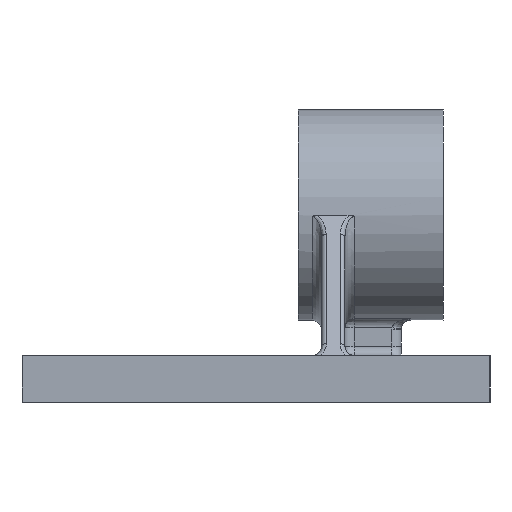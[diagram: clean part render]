
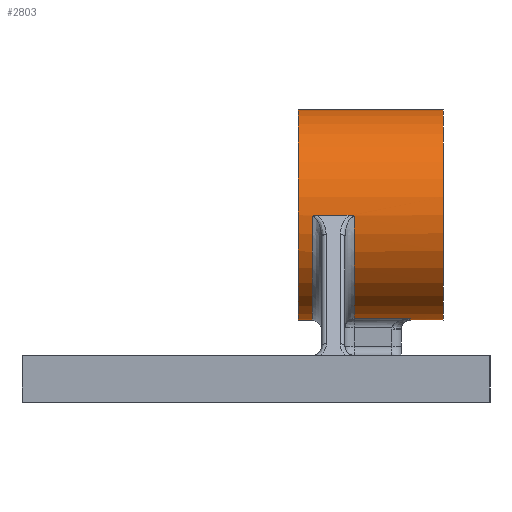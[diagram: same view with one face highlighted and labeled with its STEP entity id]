
A CAD part, left-side view. The second image highlights one B-rep face of the part: STEP entity #2803.
In plain terms, the highlighted cylindrical face has radius 22.5 mm (diameter 45 mm), a full revolution.
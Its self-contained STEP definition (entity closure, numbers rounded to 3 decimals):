
#157=CARTESIAN_POINT('',(-22.5,-12.905,40.));
#158=VERTEX_POINT('',#157);
#159=CARTESIAN_POINT('',(-22.498,-12.0,39.723));
#160=VERTEX_POINT('',#159);
#161=CARTESIAN_POINT('',(-22.498,-12.,39.723));
#162=CARTESIAN_POINT('',(-22.498,-12.001,39.723));
#163=CARTESIAN_POINT('',(-22.498,-12.002,39.724));
#164=CARTESIAN_POINT('',(-22.499,-12.124,39.812));
#165=CARTESIAN_POINT('',(-22.5,-12.255,39.877));
#166=CARTESIAN_POINT('',(-22.5,-12.56,39.976));
#167=CARTESIAN_POINT('',(-22.5,-12.732,40.));
#168=CARTESIAN_POINT('',(-22.5,-12.905,40.));
#169=B_SPLINE_CURVE_WITH_KNOTS('',3,(#161,#162,#163,#164,#165,#166,#167,#168),.UNSPECIFIED.,.F.,.U.,(4,2,2,4),(0.,0.0,0.045,0.097),.UNSPECIFIED.);
#170=EDGE_CURVE('',#158,#160,#169,.F.);
#451=CARTESIAN_POINT('',(22.498,-12.,39.723));
#452=VERTEX_POINT('',#451);
#453=CARTESIAN_POINT('',(0.,-12.,40.0));
#454=DIRECTION('',(0.0,-1.0,0.0));
#455=DIRECTION('',(0.0,0.0,-1.0));
#456=AXIS2_PLACEMENT_3D('',#453,#454,#455);
#457=CIRCLE('',#456,22.5);
#458=EDGE_CURVE('',#160,#452,#457,.T.);
#624=CARTESIAN_POINT('',(22.5,-20.095,40.));
#625=VERTEX_POINT('',#624);
#626=CARTESIAN_POINT('',(22.498,-21.,39.723));
#627=VERTEX_POINT('',#626);
#628=CARTESIAN_POINT('',(22.498,-21.,39.723));
#629=CARTESIAN_POINT('',(22.498,-20.999,39.723));
#630=CARTESIAN_POINT('',(22.498,-20.998,39.724));
#631=CARTESIAN_POINT('',(22.499,-20.876,39.812));
#632=CARTESIAN_POINT('',(22.5,-20.745,39.877));
#633=CARTESIAN_POINT('',(22.5,-20.44,39.976));
#634=CARTESIAN_POINT('',(22.5,-20.268,40.));
#635=CARTESIAN_POINT('',(22.5,-20.095,40.));
#636=B_SPLINE_CURVE_WITH_KNOTS('',3,(#628,#629,#630,#631,#632,#633,#634,#635),.UNSPECIFIED.,.F.,.U.,(4,2,2,4),(0.,0.0,0.045,0.097),.UNSPECIFIED.);
#637=EDGE_CURVE('',#625,#627,#636,.F.);
#926=CARTESIAN_POINT('',(22.5,-12.905,40.));
#927=VERTEX_POINT('',#926);
#928=CARTESIAN_POINT('',(22.5,-12.905,40.));
#929=CARTESIAN_POINT('',(22.5,-12.87,40.));
#930=CARTESIAN_POINT('',(22.5,-12.835,39.999));
#931=CARTESIAN_POINT('',(22.5,-12.649,39.988));
#932=CARTESIAN_POINT('',(22.5,-12.5,39.96));
#933=CARTESIAN_POINT('',(22.5,-12.231,39.865));
#934=CARTESIAN_POINT('',(22.499,-12.113,39.804));
#935=CARTESIAN_POINT('',(22.498,-12.002,39.724));
#936=CARTESIAN_POINT('',(22.498,-12.001,39.723));
#937=CARTESIAN_POINT('',(22.498,-12.,39.723));
#938=B_SPLINE_CURVE_WITH_KNOTS('',3,(#928,#929,#930,#931,#932,#933,#934,#935,#936,#937),.UNSPECIFIED.,.F.,.U.,(4,2,2,2,4),(0.0,0.011,0.056,0.096,0.097),.UNSPECIFIED.);
#939=EDGE_CURVE('',#452,#927,#938,.F.);
#1087=CARTESIAN_POINT('',(22.5,-20.095,40.));
#1088=DIRECTION('',(0.0,1.0,0.0));
#1089=VECTOR('',#1088,7.19);
#1090=LINE('',#1087,#1089);
#1091=EDGE_CURVE('',#625,#927,#1090,.T.);
#1383=CARTESIAN_POINT('',(-22.498,-21.0,39.723));
#1384=VERTEX_POINT('',#1383);
#1385=CARTESIAN_POINT('',(-22.5,-20.095,40.));
#1386=VERTEX_POINT('',#1385);
#1387=CARTESIAN_POINT('',(-22.5,-20.095,40.));
#1388=CARTESIAN_POINT('',(-22.5,-20.13,40.));
#1389=CARTESIAN_POINT('',(-22.5,-20.165,39.999));
#1390=CARTESIAN_POINT('',(-22.5,-20.351,39.988));
#1391=CARTESIAN_POINT('',(-22.5,-20.5,39.96));
#1392=CARTESIAN_POINT('',(-22.5,-20.769,39.865));
#1393=CARTESIAN_POINT('',(-22.499,-20.887,39.804));
#1394=CARTESIAN_POINT('',(-22.498,-20.998,39.724));
#1395=CARTESIAN_POINT('',(-22.498,-20.999,39.723));
#1396=CARTESIAN_POINT('',(-22.498,-21.,39.723));
#1397=B_SPLINE_CURVE_WITH_KNOTS('',3,(#1387,#1388,#1389,#1390,#1391,#1392,#1393,#1394,#1395,#1396),.UNSPECIFIED.,.F.,.U.,(4,2,2,2,4),(0.0,0.011,0.056,0.096,0.097),.UNSPECIFIED.);
#1398=EDGE_CURVE('',#1384,#1386,#1397,.F.);
#1479=CARTESIAN_POINT('',(-4.133,-21.,17.883));
#1480=VERTEX_POINT('',#1479);
#1488=CARTESIAN_POINT('',(0.,-21.,40.0));
#1489=DIRECTION('',(0.,1.0,0.));
#1490=DIRECTION('',(-0.745,0.,-0.667));
#1491=AXIS2_PLACEMENT_3D('',#1488,#1489,#1490);
#1492=CIRCLE('',#1491,22.5);
#1493=EDGE_CURVE('',#1480,#1384,#1492,.T.);
#1681=CARTESIAN_POINT('',(4.133,-33.0,17.883));
#1682=VERTEX_POINT('',#1681);
#1898=CARTESIAN_POINT('',(-4.133,-33.0,17.883));
#1899=VERTEX_POINT('',#1898);
#1900=CARTESIAN_POINT('',(0.,-33.0,40.0));
#1901=DIRECTION('',(0.0,1.0,0.0));
#1902=DIRECTION('',(0.0,0.0,-1.0));
#1903=AXIS2_PLACEMENT_3D('',#1900,#1901,#1902);
#1904=CIRCLE('',#1903,22.5);
#1905=EDGE_CURVE('',#1682,#1899,#1904,.T.);
#1952=CARTESIAN_POINT('',(4.133,-21.,17.883));
#1953=VERTEX_POINT('',#1952);
#1961=CARTESIAN_POINT('',(4.133,-21.,17.883));
#1962=DIRECTION('',(0.0,-1.0,0.0));
#1963=VECTOR('',#1962,12.);
#1964=LINE('',#1961,#1963);
#1965=EDGE_CURVE('',#1953,#1682,#1964,.T.);
#2645=CARTESIAN_POINT('',(-4.133,-33.0,17.883));
#2646=DIRECTION('',(0.0,1.0,0.0));
#2647=VECTOR('',#2646,12.);
#2648=LINE('',#2645,#2647);
#2649=EDGE_CURVE('',#1899,#1480,#2648,.T.);
#2702=CARTESIAN_POINT('',(0.,-21.,40.0));
#2703=DIRECTION('',(0.,1.0,0.));
#2704=DIRECTION('',(0.745,0.,-0.667));
#2705=AXIS2_PLACEMENT_3D('',#2702,#2703,#2704);
#2706=CIRCLE('',#2705,22.5);
#2707=EDGE_CURVE('',#627,#1953,#2706,.T.);
#2757=CARTESIAN_POINT('',(0.,-40.,40.0));
#2758=DIRECTION('',(0.,1.0,0.0));
#2759=DIRECTION('',(-1.0,0.0,0.0));
#2760=AXIS2_PLACEMENT_3D('',#2757,#2758,#2759);
#2761=CYLINDRICAL_SURFACE('',#2760,22.5);
#2762=CARTESIAN_POINT('',(22.5,-40.,40.0));
#2763=VERTEX_POINT('',#2762);
#2764=CARTESIAN_POINT('',(0.,-40.,40.0));
#2765=DIRECTION('',(0.0,1.0,0.0));
#2766=DIRECTION('',(-1.0,0.0,0.0));
#2767=AXIS2_PLACEMENT_3D('',#2764,#2765,#2766);
#2768=CIRCLE('',#2767,22.5);
#2769=EDGE_CURVE('',#2763,#2763,#2768,.T.);
#2770=ORIENTED_EDGE('',*,*,#2769,.T.);
#2771=EDGE_LOOP('',(#2770));
#2772=FACE_OUTER_BOUND('',#2771,.T.);
#2773=CARTESIAN_POINT('',(-22.5,-12.905,40.));
#2774=DIRECTION('',(0.0,-1.0,0.0));
#2775=VECTOR('',#2774,7.19);
#2776=LINE('',#2773,#2775);
#2777=EDGE_CURVE('',#158,#1386,#2776,.T.);
#2778=ORIENTED_EDGE('',*,*,#2777,.T.);
#2779=ORIENTED_EDGE('',*,*,#1398,.F.);
#2780=ORIENTED_EDGE('',*,*,#1493,.F.);
#2781=ORIENTED_EDGE('',*,*,#2649,.F.);
#2782=ORIENTED_EDGE('',*,*,#1905,.F.);
#2783=ORIENTED_EDGE('',*,*,#1965,.F.);
#2784=ORIENTED_EDGE('',*,*,#2707,.F.);
#2785=ORIENTED_EDGE('',*,*,#637,.F.);
#2786=ORIENTED_EDGE('',*,*,#1091,.T.);
#2787=ORIENTED_EDGE('',*,*,#939,.F.);
#2788=ORIENTED_EDGE('',*,*,#458,.F.);
#2789=ORIENTED_EDGE('',*,*,#170,.F.);
#2790=EDGE_LOOP('',(#2778,#2779,#2780,#2781,#2782,#2783,#2784,#2785,#2786,#2787,#2788,#2789));
#2791=FACE_BOUND('',#2790,.T.);
#2792=CARTESIAN_POINT('',(22.5,-9.,40.0));
#2793=VERTEX_POINT('',#2792);
#2794=CARTESIAN_POINT('',(0.,-9.,40.0));
#2795=DIRECTION('',(0.0,-1.0,0.0));
#2796=DIRECTION('',(-1.0,0.0,0.0));
#2797=AXIS2_PLACEMENT_3D('',#2794,#2795,#2796);
#2798=CIRCLE('',#2797,22.5);
#2799=EDGE_CURVE('',#2793,#2793,#2798,.T.);
#2800=ORIENTED_EDGE('',*,*,#2799,.T.);
#2801=EDGE_LOOP('',(#2800));
#2802=FACE_BOUND('',#2801,.T.);
#2803=ADVANCED_FACE('',(#2772,#2791,#2802),#2761,.T.);
